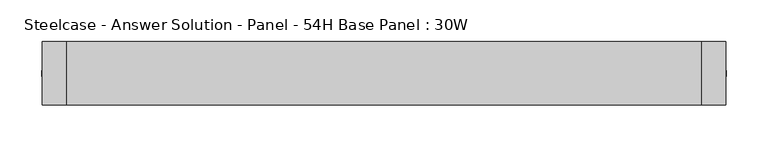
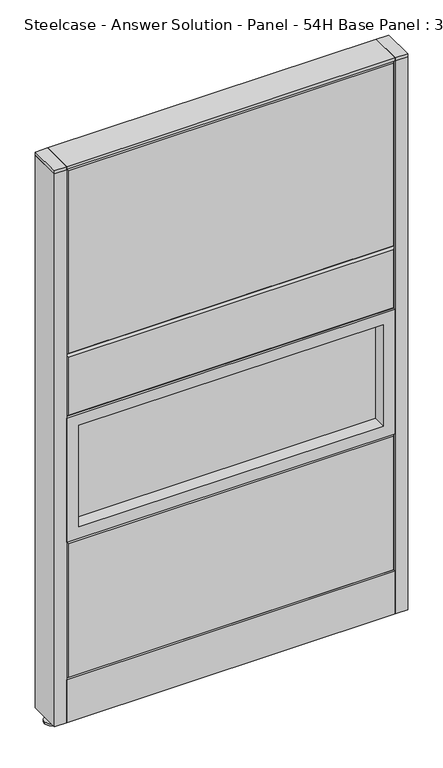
"""IFC4 building model written with IfcOpenShell, lengths in millimetres: furniture geometry, Steelcase - Answer Solution - Panel - 54H Base Panel : 30W."""

from ifc_helpers import new_model, si_unit, point, frame, frame_2d, origin, place, context, project, spatial, polyline, circle_curve, trimmed, segment, composite_curve, outline, extrude, faceted_brep, source, transform, mapped, element, save


def steelcase_answer_solution_panel_54h_base_panel_30w_eaacf3a2(model_context):
    return source(origin(), model_context, "Body", "SolidModel", [
        extrude(outline(composite_curve([segment(trimmed(circle_curve(frame_2d((395.224, 0.0320214)), 5.08), [point((400.304, 0.0320214))], [point((390.144, 0.0320214))], False, "CARTESIAN"), True, "CONTINUOUS"), segment(trimmed(circle_curve(frame_2d((395.224, 0.0320214)), 5.08), [point((390.144, 0.0320214))], [point((400.304, 0.0320214))], False, "CARTESIAN"), True, "CONTINUOUS")], self_intersect=False)), frame((0.0, 0.0, 5.0799671), z_axis=(0.0, 0.0, 1.0), x_axis=(1.0, 0.0, 0.0)), (0.0, 0.0, 1.0), 10.414),
        extrude(outline(composite_curve([segment(trimmed(circle_curve(frame_2d((395.224, 0.0320214)), 15.24), [point((410.464, 0.0320214))], [point((379.984, 0.0320214))], False, "CARTESIAN"), True, "CONTINUOUS"), segment(trimmed(circle_curve(frame_2d((395.224, 0.0320214)), 15.24), [point((379.984, 0.0320214))], [point((410.464, 0.0320214))], False, "CARTESIAN"), True, "CONTINUOUS")], self_intersect=False)), frame((0.0, 0.0, -3.29e-05), z_axis=(0.0, 0.0, 1.0), x_axis=(1.0, 0.0, 0.0)), (0.0, 0.0, 1.0), 5.08),
        extrude(outline(polyline([(409.575, 38.1320408), (409.575, -38.0679592), (381.0, -38.0679592), (381.0, 38.1320408), (409.575, 38.1320408)])), frame((0.0, 0.0, 1370.6348), z_axis=(0.0, 0.0, 1.0), x_axis=(1.0, 0.0, 0.0)), (0.0, 0.0, 1.0), 7.3151671),
        extrude(outline(polyline([(409.575, 38.1320408), (409.575, -38.0679592), (381.0, -38.0679592), (381.0, 38.1320408), (409.575, 38.1320408)])), frame((0.0, 0.0, 15.4939671), z_axis=(0.0, 0.0, 1.0), x_axis=(1.0, 0.0, 0.0)), (0.0, 0.0, 1.0), 1355.1408329),
        extrude(outline(composite_curve([segment(trimmed(circle_curve(frame_2d((-395.224, 0.0320214)), 5.08), [point((-400.304, 0.0320214))], [point((-390.144, 0.0320214))], False, "CARTESIAN"), True, "CONTINUOUS"), segment(trimmed(circle_curve(frame_2d((-395.224, 0.0320214)), 5.08), [point((-390.144, 0.0320214))], [point((-400.304, 0.0320214))], False, "CARTESIAN"), True, "CONTINUOUS")], self_intersect=False)), frame((0.0, 0.0, 5.0799671), z_axis=(0.0, 0.0, 1.0), x_axis=(1.0, 0.0, 0.0)), (0.0, 0.0, 1.0), 10.414),
        extrude(outline(composite_curve([segment(trimmed(circle_curve(frame_2d((-395.224, 0.0320214)), 15.24), [point((-410.464, 0.0320214))], [point((-379.984, 0.0320214))], False, "CARTESIAN"), True, "CONTINUOUS"), segment(trimmed(circle_curve(frame_2d((-395.224, 0.0320214)), 15.24), [point((-379.984, 0.0320214))], [point((-410.464, 0.0320214))], False, "CARTESIAN"), True, "CONTINUOUS")], self_intersect=False)), frame((0.0, 0.0, -3.29e-05), z_axis=(0.0, 0.0, 1.0), x_axis=(1.0, 0.0, 0.0)), (0.0, 0.0, 1.0), 5.08),
        extrude(outline(polyline([(-409.575, 38.1320408), (-381.0, 38.1320408), (-381.0, -38.0679592), (-409.575, -38.0679592), (-409.575, 38.1320408)])), frame((0.0, 0.0, 1370.6348), z_axis=(0.0, 0.0, 1.0), x_axis=(1.0, 0.0, 0.0)), (0.0, 0.0, 1.0), 7.3151671),
        extrude(outline(polyline([(-409.575, 38.1320408), (-381.0, 38.1320408), (-381.0, -38.0679592), (-409.575, -38.0679592), (-409.575, 38.1320408)])), frame((0.0, 0.0, 15.4939671), z_axis=(0.0, 0.0, 1.0), x_axis=(1.0, 0.0, 0.0)), (0.0, 0.0, 1.0), 1355.1408329),
        extrude(outline(polyline([(-353.06, 6.346049), (353.06, 6.346049), (353.06, -6.353951), (-353.06, -6.353951), (-353.06, 6.346049)])), frame((0.0, 0.0, 485.14), z_axis=(0.0, 0.0, 1.0), x_axis=(1.0, 0.0, 0.0)), (0.0, 0.0, 1.0), 248.92),
        extrude(outline(polyline([(762.0, -381.0), (457.2, -381.0), (457.2, 381.0), (762.0, 381.0), (762.0, -381.0)]), holes=[polyline([(734.06, -353.06), (734.06, 353.06), (485.14, 353.06), (485.14, -353.06), (734.06, -353.06)])]), frame((0.0, -38.103951, 0.0), z_axis=(0.0, 1.0, 0.0), x_axis=(0.0, 0.0, 1.0)), (0.0, 0.0, 1.0), 76.2),
        faceted_brep([(-376.174, 38.1635011, 1366.774), (376.174, 38.1635011, 1366.774), (376.174, 38.1635011, 919.226), (-376.174, 38.1635011, 919.226), (-381.0, 33.3375011, 1371.6), (-381.0, 33.3375011, 914.4), (381.0, 33.3375011, 914.4), (381.0, 33.3375011, 1371.6)], [[[0, 1, 2, 3]], [[4, 5, 6, 7]], [[4, 7, 1, 0]], [[7, 6, 2, 1]], [[6, 5, 3, 2]], [[5, 4, 0, 3]]]),
        faceted_brep([(-376.174, 38.1635011, 909.574), (376.174, 38.1635011, 909.574), (376.174, 38.1635011, 766.826), (-376.174, 38.1635011, 766.826), (-381.0, 33.3375011, 914.4), (-381.0, 33.3375011, 762.0), (381.0, 33.3375011, 762.0), (381.0, 33.3375011, 914.4)], [[[0, 1, 2, 3]], [[4, 5, 6, 7]], [[4, 7, 1, 0]], [[7, 6, 2, 1]], [[6, 5, 3, 2]], [[5, 4, 0, 3]]]),
        faceted_brep([(-376.174, 38.1635011, 452.374), (376.174, 38.1635011, 452.374), (376.174, 38.1635011, 125.476), (-376.174, 38.1635011, 125.476), (-381.0, 33.3375011, 457.2), (-381.0, 33.3375011, 120.65), (381.0, 33.3375011, 120.65), (381.0, 33.3375011, 457.2)], [[[0, 1, 2, 3]], [[4, 5, 6, 7]], [[4, 7, 1, 0]], [[7, 6, 2, 1]], [[6, 5, 3, 2]], [[5, 4, 0, 3]]]),
        extrude(outline(polyline([(353.06, -6.346049), (-353.06, -6.346049), (-353.06, 6.353951), (353.06, 6.353951), (353.06, -6.346049)])), frame((0.0, 0.0, 485.14), z_axis=(0.0, 0.0, 1.0), x_axis=(1.0, 0.0, 0.0)), (0.0, 0.0, 1.0), 248.92),
        extrude(outline(polyline([(762.0, 381.0), (762.0, -381.0), (457.2, -381.0), (457.2, 381.0), (762.0, 381.0)]), holes=[polyline([(734.06, 353.06), (485.14, 353.06), (485.14, -353.06), (734.06, -353.06), (734.06, 353.06)])]), frame((0.0, -38.096049, 0.0), z_axis=(0.0, 1.0, 0.0), x_axis=(0.0, 0.0, 1.0)), (0.0, 0.0, 1.0), 76.2),
        faceted_brep([(376.174, -38.1635011, 1366.774), (-376.174, -38.1635011, 1366.774), (-376.174, -38.1635011, 919.226), (376.174, -38.1635011, 919.226), (381.0, -33.3375011, 1371.6), (381.0, -33.3375011, 914.4), (-381.0, -33.3375011, 914.4), (-381.0, -33.3375011, 1371.6)], [[[0, 1, 2, 3]], [[4, 5, 6, 7]], [[4, 7, 1, 0]], [[7, 6, 2, 1]], [[6, 5, 3, 2]], [[5, 4, 0, 3]]]),
        faceted_brep([(376.174, -38.1635011, 909.574), (-376.174, -38.1635011, 909.574), (-376.174, -38.1635011, 766.826), (376.174, -38.1635011, 766.826), (381.0, -33.3375011, 914.4), (381.0, -33.3375011, 762.0), (-381.0, -33.3375011, 762.0), (-381.0, -33.3375011, 914.4)], [[[0, 1, 2, 3]], [[4, 5, 6, 7]], [[4, 7, 1, 0]], [[7, 6, 2, 1]], [[6, 5, 3, 2]], [[5, 4, 0, 3]]]),
        faceted_brep([(376.174, -38.1635011, 452.374), (-376.174, -38.1635011, 452.374), (-376.174, -38.1635011, 125.476), (376.174, -38.1635011, 125.476), (381.0, -33.3375011, 457.2), (381.0, -33.3375011, 120.65), (-381.0, -33.3375011, 120.65), (-381.0, -33.3375011, 457.2)], [[[0, 1, 2, 3]], [[4, 5, 6, 7]], [[4, 7, 1, 0]], [[7, 6, 2, 1]], [[6, 5, 3, 2]], [[5, 4, 0, 3]]]),
        extrude(outline(polyline([(381.0, 38.1000194), (381.0, -38.1000194), (-381.0, -38.1000194), (-381.0, 38.1000194), (381.0, 38.1000194)])), frame((0.0, 0.0, 1371.6), z_axis=(0.0, 0.0, 1.0), x_axis=(1.0, 0.0, 0.0)), (0.0, 0.0, 1.0), 6.35),
        extrude(outline(polyline([(25.4000011, 119.8575157), (25.4000011, 120.65), (38.1000194, 120.65), (38.1000194, 15.494), (37.3075215, 15.494), (37.3075215, 119.8575157), (25.4000011, 119.8575157)])), frame((-381.0, 0.0, 0.0), z_axis=(1.0, 0.0, 0.0), x_axis=(0.0, 1.0, 0.0)), (0.0, 0.0, 1.0), 762.0),
        extrude(outline(polyline([(-25.4000011, 119.8575157), (-37.3075215, 119.8575157), (-37.3075215, 15.494), (-38.1000194, 15.494), (-38.1000194, 120.65), (-25.4000011, 120.65), (-25.4000011, 119.8575157)])), frame((-381.0, 0.0, 0.0), z_axis=(1.0, 0.0, 0.0), x_axis=(0.0, 1.0, 0.0)), (0.0, 0.0, 1.0), 762.0),
    ])


if __name__ == "__main__":
    model = new_model("IFC4")
    model_context = context("Model", 3, world=origin())
    ifc_project = project(units=[si_unit("LENGTHUNIT", "METRE", prefix="MILLI")], contexts=[model_context])
    site = spatial("IfcSite", under=ifc_project)
    building = spatial("IfcBuilding", under=site)
    placement = place(None, origin())
    steelcase_answer_solution_panel_54h_base_panel_30w_shape = steelcase_answer_solution_panel_54h_base_panel_30w_eaacf3a2(model_context)
    element("IfcFurniture", 1, ObjectType="Steelcase - Answer Solution - Panel - 54H Base Panel : 30W", at=placement, inside=building, context=model_context, shape_type="MappedRepresentation", body=[
        mapped(steelcase_answer_solution_panel_54h_base_panel_30w_shape, transform((0.0, 0.0, 0.0), x_axis=(1.0, 0.0, 0.0), y_axis=(0.0, 1.0, 0.0), z_axis=(0.0, 0.0, 1.0))),
    ])
    save(model, "model.ifc")
